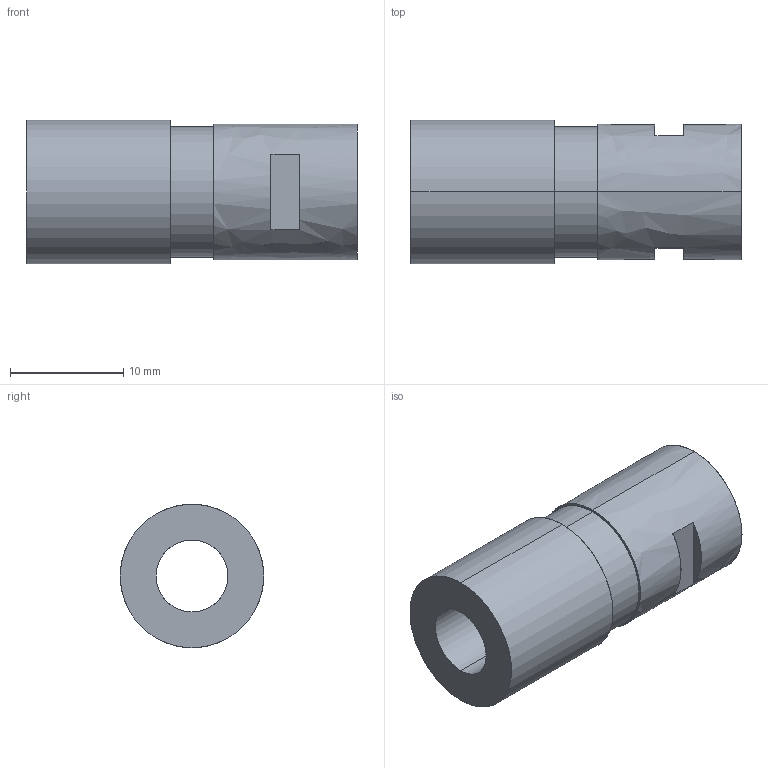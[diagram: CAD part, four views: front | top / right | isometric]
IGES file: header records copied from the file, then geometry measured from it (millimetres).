
Start section: SolidWorks IGES file using analytic representation for surfaces
Global section: file name: C:\Users\HUSSAM KAMEL\Desktop\P-22 Suppressor Adapter.IGS; native system: SolidWorks 2011; preprocessor: SolidWorks 2011; author: HUSSAM KAMEL; date: 120504.205754; units: inch
Bounding box: 29.21 x 12.7 x 12.7 mm (x, y, z)
Surface area: 1954.3 mm2 (no closed solid volume)
Topology: 0 solids, 0 shells, 21 faces, 412 edges, 412 vertices
Faces by surface type: bspline 11, revolution 10
